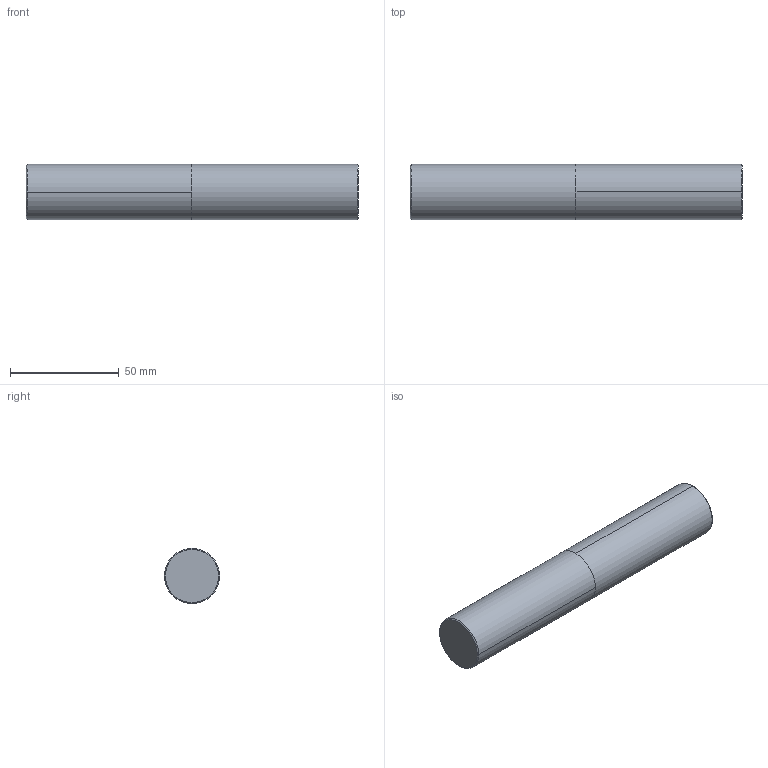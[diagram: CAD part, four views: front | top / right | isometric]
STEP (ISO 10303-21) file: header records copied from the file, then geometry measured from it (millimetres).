
FILE_DESCRIPTION (( 'STEP AP214' ), '1' );
FILE_NAME ('UGMF70875.STEP', '2018-10-18T09:51:51', ( 'USER' ), ( '' ), 'SwSTEP 2.0', 'SolidWorks 2014', '' );
FILE_SCHEMA (( 'AUTOMOTIVE_DESIGN' ));
Length unit declared in the file: millimetre
Products named in the file (1): UGMF70875
Bounding box: 152.4 x 25.4 x 25.4 mm (x, y, z)
Volume: 77209.9 mm3; surface area: 14151 mm2
Topology: 2 solids, 2 shells, 12 faces, 20 edges, 12 vertices
Faces by surface type: cylinder 4, plane 4, torus 2, cone 2
Entity records: 395 total; most frequent: DIRECTION 60, CARTESIAN_POINT 45, ORIENTED_EDGE 40, AXIS2_PLACEMENT_3D 27, EDGE_CURVE 20, CIRCLE 14, VERTEX_POINT 12, EDGE_LOOP 12
